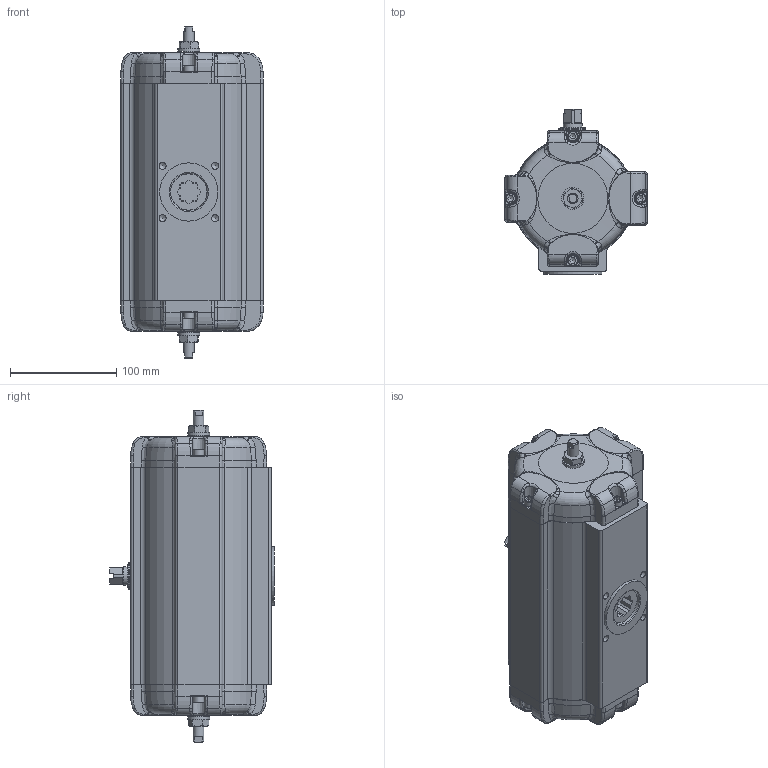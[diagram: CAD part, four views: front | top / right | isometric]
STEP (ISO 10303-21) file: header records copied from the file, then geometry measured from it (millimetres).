
FILE_DESCRIPTION((''),'2;1');
FILE_NAME('C:\Dokumente und Einstellungen\ko-p\Desktop\SAD_20-180°_BR03.stp','2011-02-03T09:43:54',('war'),(''),'Autodesk Inventor 2010','Autodesk Inventor 2010','');
FILE_SCHEMA(('AUTOMOTIVE_DESIGN { 1 0 10303 214 1 1 1 1 }'));
Length unit declared in the file: millimetre
Products named in the file (1): ENG-045874_Konturvereinfachung_1
Bounding box: 134 x 155.5 x 313 mm (x, y, z)
Surface area: 171292.5 mm2 (no closed solid volume)
Topology: 0 solids, 33 shells, 569 faces, 1760 edges, 1184 vertices
Faces by surface type: bspline 232, plane 180, cylinder 94, cone 40, torus 23
Full cylindrical faces by diameter (mm): 10 x10, 17 x1, 17.8 x1, 20.8 x2, 25 x2, 55 x1
Entity records: 40093 total; most frequent: CARTESIAN_POINT 26227, ORIENTED_EDGE 2750, DIRECTION 2170, EDGE_CURVE 1645, VERTEX_POINT 1138, AXIS2_PLACEMENT_3D 815, EDGE_LOOP 672, FACE_OUTER_BOUND 569
